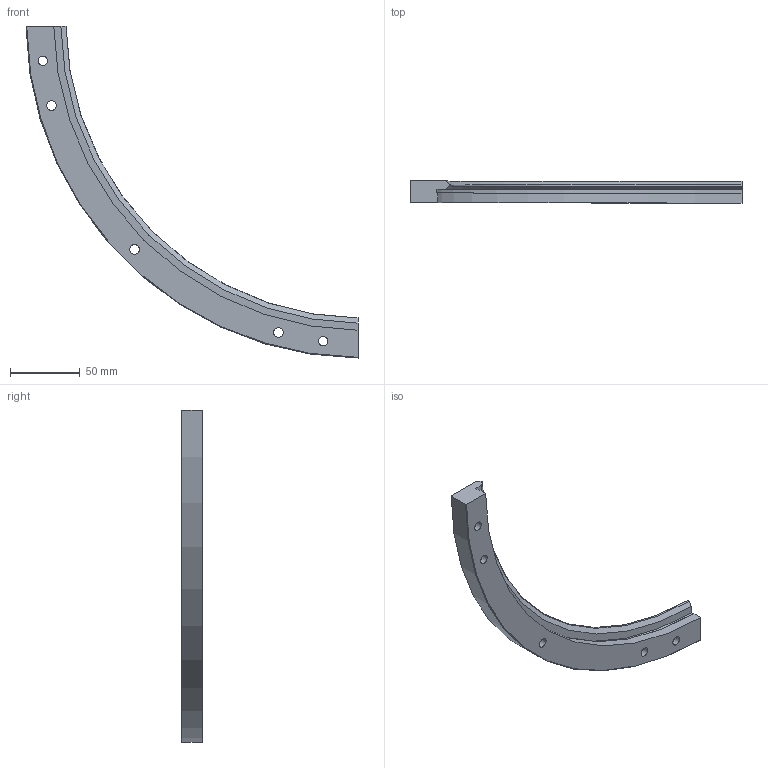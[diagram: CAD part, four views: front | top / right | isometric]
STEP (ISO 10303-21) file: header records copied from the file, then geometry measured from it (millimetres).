
FILE_DESCRIPTION( ( 'STEP AP203' ), '1' );
FILE_NAME( 'p:/temp/worker_32/temp/exporttempdir_4476_45_YQoph/format_0/TRIM 482 R90 .stp', '2021-09-17T07:49:34', ( 'License CC BY-ND 4.0' ), ( 'CADENAS' ), ' ', 'PARTsolutions', ' ' );
FILE_SCHEMA( ( 'CONFIG_CONTROL_DESIGN' ) );
Length unit declared in the file: millimetre
Products named in the file (1): _TRIM 482 R90  
Bounding box: 238.74 x 15.5 x 238.74 mm (x, y, z)
Volume: 120326.3 mm3; surface area: 32653.8 mm2
Topology: 1 solids, 1 shells, 29 faces, 66 edges, 44 vertices
Faces by surface type: cylinder 13, plane 11, cone 4, torus 1
Full cylindrical faces by diameter (mm): 6.8 x5, 11 x5
Entity records: 868 total; most frequent: CARTESIAN_POINT 172, DIRECTION 138, ORIENTED_EDGE 112, AXIS2_PLACEMENT_3D 62, EDGE_CURVE 56, EDGE_LOOP 54, VERTEX_POINT 44, FACE_OUTER_BOUND 39
